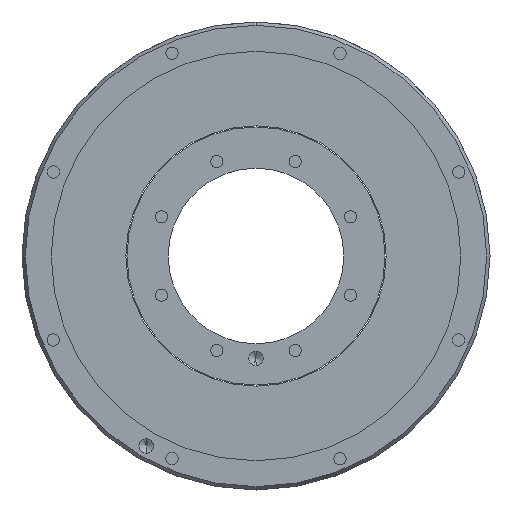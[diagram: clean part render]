
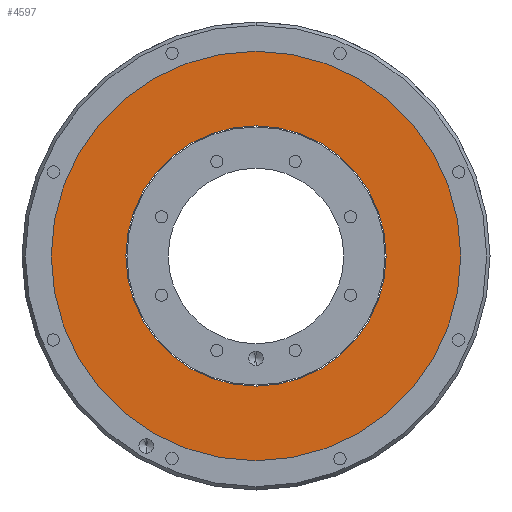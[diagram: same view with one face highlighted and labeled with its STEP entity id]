
A CAD part, front view. The second image highlights one B-rep face of the part: STEP entity #4597.
In plain terms, the highlighted planar face has unit normal (0, -1, 0).
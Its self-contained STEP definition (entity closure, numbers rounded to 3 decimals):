
#149 = EDGE_CURVE ( 'NONE', #1677, #945, #4160, .T. ) ;
#226 = DIRECTION ( 'NONE',  ( 0., -1., 0. ) ) ;
#227 = CARTESIAN_POINT ( 'NONE',  ( 0., 1., 0. ) ) ;
#278 = ORIENTED_EDGE ( 'NONE', *, *, #2091, .T. ) ;
#303 = CARTESIAN_POINT ( 'NONE',  ( 0., 1., 0. ) ) ;
#408 = ORIENTED_EDGE ( 'NONE', *, *, #714, .F. ) ;
#423 = CARTESIAN_POINT ( 'NONE',  ( 0., 1., 44.5 ) ) ;
#455 = VERTEX_POINT ( 'NONE', #3986 ) ;
#584 = DIRECTION ( 'NONE',  ( 0., -1., 0. ) ) ;
#612 = EDGE_LOOP ( 'NONE', ( #278, #1355 ) ) ;
#699 = VERTEX_POINT ( 'NONE', #2928 ) ;
#714 = EDGE_CURVE ( 'NONE', #945, #1677, #730, .T. ) ;
#716 = DIRECTION ( 'NONE',  ( 0., 0., -1. ) ) ;
#730 = CIRCLE ( 'NONE', #3332, 44.5 ) ;
#784 = FACE_BOUND ( 'NONE', #4594, .T. ) ;
#945 = VERTEX_POINT ( 'NONE', #3557 ) ;
#1355 = ORIENTED_EDGE ( 'NONE', *, *, #1724, .T. ) ;
#1480 = AXIS2_PLACEMENT_3D ( 'NONE', #303, #1938, #716 ) ;
#1677 = VERTEX_POINT ( 'NONE', #423 ) ;
#1724 = EDGE_CURVE ( 'NONE', #699, #455, #2014, .T. ) ;
#1781 = AXIS2_PLACEMENT_3D ( 'NONE', #4907, #1782, #2549 ) ;
#1782 = DIRECTION ( 'NONE',  ( 0., -1., 0. ) ) ;
#1938 = DIRECTION ( 'NONE',  ( 0., -1., 0. ) ) ;
#2014 = CIRCLE ( 'NONE', #2659, 70. ) ;
#2042 = AXIS2_PLACEMENT_3D ( 'NONE', #2622, #584, #2657 ) ;
#2091 = EDGE_CURVE ( 'NONE', #455, #699, #4113, .T. ) ;
#2549 = DIRECTION ( 'NONE',  ( 0., 0., -1. ) ) ;
#2622 = CARTESIAN_POINT ( 'NONE',  ( 0., 1., 0. ) ) ;
#2657 = DIRECTION ( 'NONE',  ( 0., 0., -1. ) ) ;
#2659 = AXIS2_PLACEMENT_3D ( 'NONE', #3013, #226, #4568 ) ;
#2928 = CARTESIAN_POINT ( 'NONE',  ( 0., 1., 70. ) ) ;
#3013 = CARTESIAN_POINT ( 'NONE',  ( 0., 1., 0. ) ) ;
#3332 = AXIS2_PLACEMENT_3D ( 'NONE', #227, #3823, #4624 ) ;
#3557 = CARTESIAN_POINT ( 'NONE',  ( 0., 1., -44.5 ) ) ;
#3674 = ORIENTED_EDGE ( 'NONE', *, *, #149, .F. ) ;
#3823 = DIRECTION ( 'NONE',  ( 0., -1., 0. ) ) ;
#3986 = CARTESIAN_POINT ( 'NONE',  ( 0., 1., -70. ) ) ;
#4113 = CIRCLE ( 'NONE', #1480, 70. ) ;
#4160 = CIRCLE ( 'NONE', #2042, 44.5 ) ;
#4465 = FACE_OUTER_BOUND ( 'NONE', #612, .T. ) ;
#4568 = DIRECTION ( 'NONE',  ( 0., 0., -1. ) ) ;
#4575 = PLANE ( 'NONE',  #1781 ) ;
#4594 = EDGE_LOOP ( 'NONE', ( #408, #3674 ) ) ;
#4597 = ADVANCED_FACE ( 'NONE', ( #4465, #784 ), #4575, .T. ) ;
#4624 = DIRECTION ( 'NONE',  ( 0., 0., -1. ) ) ;
#4907 = CARTESIAN_POINT ( 'NONE',  ( 44.5, 1., 0. ) ) ;
